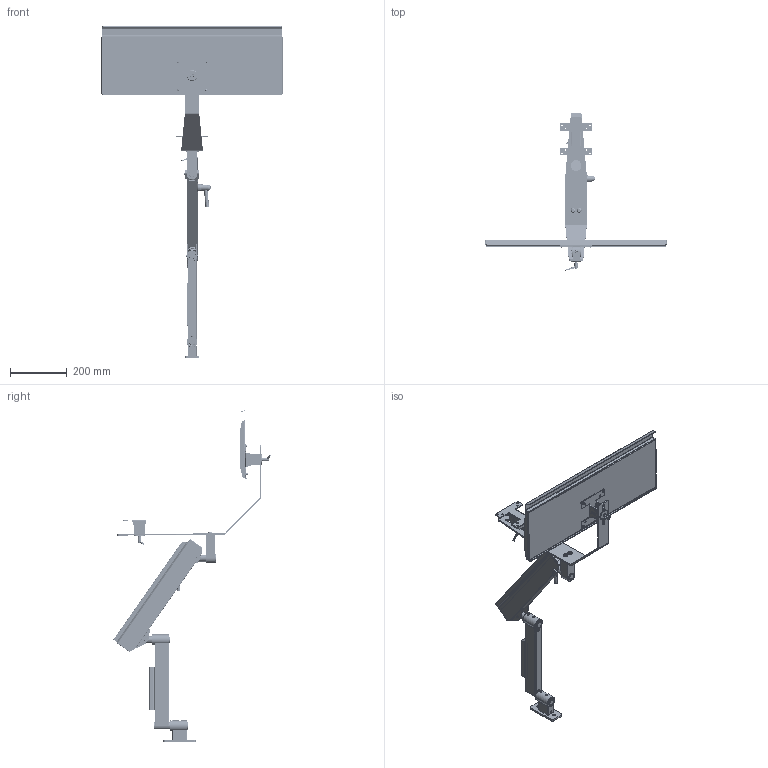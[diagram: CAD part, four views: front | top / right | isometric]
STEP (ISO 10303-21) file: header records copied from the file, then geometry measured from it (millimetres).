
FILE_DESCRIPTION (( 'STEP AP203' ), '1' );
FILE_NAME ('70-8650-00 REV AA, INT. ULTRA FLEX 360 WORKSTN, 4-21 LB - DOWN.STEP', '2025-10-01T23:00:23', ( '' ), ( '' ), 'SwSTEP 2.0', 'SolidWorks 2025', '' );
FILE_SCHEMA (( 'CONFIG_CONTROL_DESIGN' ));
Length unit declared in the file: inch
Products named in the file (65): 006-002-00_006-002-00; 71-1301-BLKX REV AA, FLEX HOUSING, 13.5in, BLACK_Powder Coat; 71-0022-RX REV AA, PIN, RIGID SECTION; 70-0272-00 REV AA, CABLE COVER, 12in RIGID, BLACK; 11-0028-RX REV AA, PLASTIC DISC, VESA; 004-050-00, WASHER, FIBER, .032 THK, .265ID; 42-0060-00 REV AA, VESA SUB ASSEMBLY, INT. WORKSTATION; 70-0018-00 REV AA, MICRO HD WALL MOUNT; 71-0070-RX REV AA, AXLE PIN, SHORT; 41-0063-RX REV AA, PIN, TILT, VESA; 11-0027-RX REV AA, PLASTIC DISC, BRAKE ASSEMBLY_MACHINE; 71-0071-RX REV AA, AXLE PIN, LONG; 71-1012-RX REV AA, HOUSING, 12in RIGID_MACHINE; 70-1012-00 REV AA, 12in RIGID SECTION; 016-008-00, OILITE PLUS BEARING, 0.876 id x 1.002 od x 1.25 lg; 002-041-00_002-041-00; 71-0028-RX REV AA, TAB, MOUNT_MACHINE; 016-070-00, BEARING, PLASTIC, .5ID x .625 OD x .75; 11-0062-BLKX REV AA, BRACKET, VESA, SHEETMETAL, BLACK; 006-059-00; 71-1033-RX REV AA, BOLT, ADJUSTING, 10.9; 70-1321-00 REV AA, FLEX SECTION, 13.5in, 4-21 LB_Down; 11-0602-RX REV AA, HANDLE, BRAKE ASSEMBLY; 016-007-00, OILITE PLUS BEARING, 0.876 id x 1.002 od x 0.75 lg; 71-0037-RX REV AA, PIVOT, THREADED; 71-0040-RX REV AA, BRAKE BLOCK, WIDE_MACHINE; 71-0029-RX REV AA, TAB, LOAD; 025-064-00, LOCK LEVER, QUARTER20 x .390; 71-0218-RX REV AA, PLATE, MICRO HD, 4.5 x 2.0 x .25_Laser; 004-144-00; 011-020-00 REV AA, PIN, KNURLED, 1.0LG x .25OD; 70-0080-00 REV AA, INTEGRATED WORKSTATION_TRAY HORIZONTAL; 002-088-00, FHSCS 10-32 x .5L, BO_002-088-00; 71-0038-RX REV AA, PIVOT, KNUCKLE, ELECTROLESS NICKEL; 71-0031-RX REV AA, KNUCKLE, MOUNT_MACHINE; 016-012-00, OILITE PLUS BEARING, .876 IDx1.0 OD x 1.0; 71-1032-RX REV AA, SPRING ROD, 13.5in FLEX; 70-8650-00 REV AA, INT. ULTRA FLEX 360 WORKSTN, 4-21 LB - DOWN; 71-0090-RX REV AA, HOUSING, MOUNT; 11-0405-BLKX REV AA, BRACKET, INTEGRATED WORKSTATION, BLACK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
Assembly tree (116 placements, depth 5):
  70-8650-00 REV AA, INT. ULTRA FLEX 360 WORKSTN, 4-21 LB - DOWN
    70-0018-00 REV AA, MICRO HD WALL MOUNT
      71-0218-RX REV AA, PLATE, MICRO HD, 4.5 x 2.0 x .25_Laser
      71-0090-RX REV AA, HOUSING, MOUNT
      71-2113-RX REV AA, HOUSING, BEARING, TALL, 1.5OD_MACHINE
      016-007-00, OILITE PLUS BEARING, 0.876 id x 1.002 od x 0.75 lg
      016-008-00, OILITE PLUS BEARING, 0.876 id x 1.002 od x 1.25 lg
      007-036-00, SHSS, 1''4-28, .25L_007-036-00
    70-1012-00 REV AA, 12in RIGID SECTION
      71-1012-RX REV AA, HOUSING, 12in RIGID_MACHINE
      71-0022-RX REV AA, PIN, RIGID SECTION
      71-2113-RX REV AA, HOUSING, BEARING, TALL, 1.5OD_MACHINE
      016-007-00, OILITE PLUS BEARING, 0.876 id x 1.002 od x 0.75 lg
      016-008-00, OILITE PLUS BEARING, 0.876 id x 1.002 od x 1.25 lg
      007-036-00, SHSS, 1''4-28, .25L_007-036-00
      010-012-00, RETAINING RING, EXTERNAL, .875in SHAFT
    70-0272-00 REV AA, CABLE COVER, 12in RIGID, BLACK
    70-1321-00 REV AA, FLEX SECTION, 13.5in, 4-21 LB_Down
      71-0031-RX REV AA, KNUCKLE, MOUNT_MACHINE
      71-1032-RX REV AA, SPRING ROD, 13.5in FLEX
      71-0030-RX REV AA, KNUCKLE, LOAD_MACHINE
      71-0038-RX REV AA, PIVOT, KNUCKLE, ELECTROLESS NICKEL
      71-1033-RX REV AA, BOLT, ADJUSTING, 10.9
      71-0037-RX REV AA, PIVOT, THREADED
      71-0040-RX REV AA, BRAKE BLOCK, WIDE_MACHINE
      71-1051-RX REV AA, SPRING BLOCK
      71-0070-RX REV AA, AXLE PIN, SHORT
      11-0027-RX REV AA, PLASTIC DISC, BRAKE ASSEMBLY_MACHINE
      11-0650-00 REV AA, BRAKE HANDLE ASSEMBLY
        11-0601-99 REV AA, CONICAL KNOB, BRAKE ASSEMBLY
        11-0602-RX REV AA, HANDLE, BRAKE ASSEMBLY
        11-0027-RX REV AA, PLASTIC DISC, BRAKE ASSEMBLY_MACHINE
        005-084-00, BOLT, 1''4-20x2.75
      71-1301-BLKX REV AA, FLEX HOUSING, 13.5in, BLACK_Powder Coat
        71-1300-RX REV AA, HOUSING, 13.5in FLEX
        71-0029-RX REV AA, TAB, LOAD  x2
        71-0028-RX REV AA, TAB, MOUNT_MACHINE  x2
      71-0071-RX REV AA, AXLE PIN, LONG
      010-011-00, RETAINING RING, EXT, .250 SHAFT_010-011-00  x4
      71-0972-99 REV AA, END CAP, FLEX  x2
      006-004-00_006-004-00  x2
      002-041-00_002-041-00  x2
      010-012-00, RETAINING RING, EXTERNAL, .875in SHAFT  x2
      011-033-00
      004-050-00, WASHER, FIBER, .032 THK, .265ID  x8
      011-020-00 REV AA, PIN, KNURLED, 1.0LG x .25OD  x2
      004-144-00  x3
      006-059-00
      013-062-00, SPRING, RED, 1x8_ISO425203
      016-070-00, BEARING, PLASTIC, .5ID x .625 OD x .75  x2
    70-0269-00 REV AA, CABLE COVER, 13.5in FLEX, BLACK
    70-0080-00 REV AA, INTEGRATED WORKSTATION_TRAY HORIZONTAL
      11-0405-BLKX REV AA, BRACKET, INTEGRATED WORKSTATION, BLACK
      42-0060-00 REV AA, VESA SUB ASSEMBLY, INT. WORKSTATION
        41-0060-ANX REV AA, BODY, VESA, INT. WORKSTATION, BLACK
          41-0060-RX REV AA, BODY, VESA, INT. WORKSTATION
        41-0063-RX REV AA, PIN, TILT, VESA
        11-0062-BLKX REV AA, BRACKET, VESA, SHEETMETAL, BLACK
        11-0027-RX REV AA, PLASTIC DISC, BRAKE ASSEMBLY_MACHINE
        025-064-00, LOCK LEVER, QUARTER20 x .390
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Bounding box: 641.2 x 556.94 x 1175.25 mm (x, y, z)
Volume: 1707914.1 mm3; surface area: 1192192.6 mm2
Topology: 112 solids, 112 shells, 3555 faces, 8660 edges, 5336 vertices
Faces by surface type: cylinder 1580, plane 984, cone 736, torus 155, bspline 90, sphere 10
Entity records: 104587 total; most frequent: CARTESIAN_POINT 55667, ORIENTED_EDGE 8540, DIRECTION 8446, EDGE_CURVE 4270, AXIS2_PLACEMENT_3D 3227, VERTEX_POINT 2628, LINE 1992, VECTOR 1992
